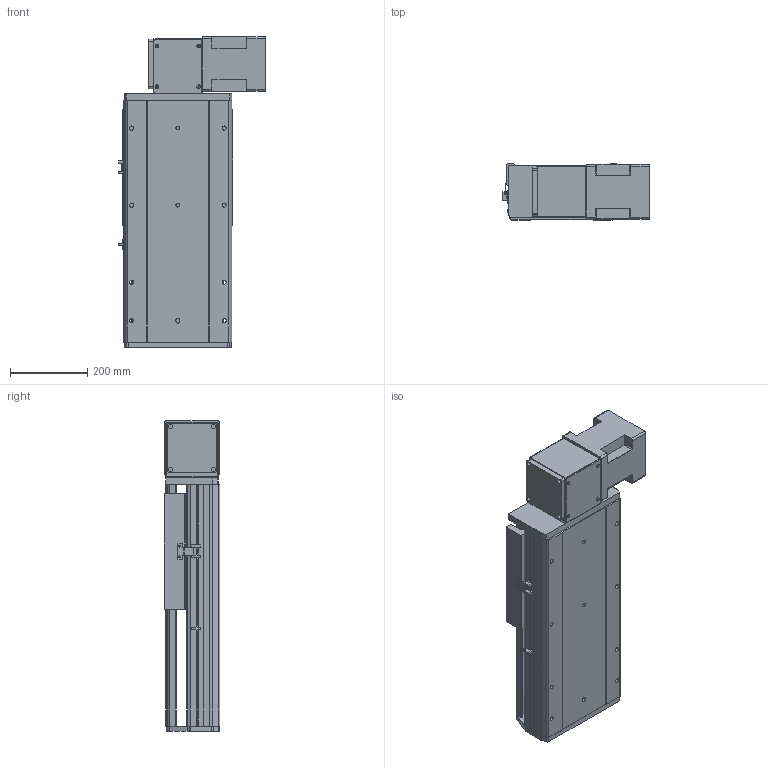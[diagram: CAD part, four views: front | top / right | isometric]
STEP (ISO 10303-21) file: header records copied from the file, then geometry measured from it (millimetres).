
FILE_DESCRIPTION (( 'STEP AP214' ), '1' );
FILE_NAME ('RTB28S-XX-200-BL-M100-XX-C4.STEP', '2025-12-22T02:15:24', ( '' ), ( '' ), 'SwSTEP 2.0', 'SolidWorks 2018', '' );
FILE_SCHEMA (( 'AUTOMOTIVE_DESIGN' ));
Length unit declared in the file: millimetre
Products named in the file (4): RTB28S-GY-004^RTB28S-XX-XX-BL-M100-XX-C4; RTB28S-XX-200-BL-M100-XX-C4; RTB28S-GY-011^RTB28S-XX-XX-BL-M100-XX-C4; RTB28S-GY-008^RTB28S-XX-XX-BL-M100-XX-C4
Assembly tree (3 placements, depth 2):
  RTB28S-XX-200-BL-M100-XX-C4
    RTB28S-GY-011^RTB28S-XX-XX-BL-M100-XX-C4
    RTB28S-GY-004^RTB28S-XX-XX-BL-M100-XX-C4
    RTB28S-GY-008^RTB28S-XX-XX-BL-M100-XX-C4
Bounding box: 380.7 x 145 x 807 mm (x, y, z)
Volume: 17012808.9 mm3; surface area: 1725177 mm2
Topology: 3 solids, 4 shells, 748 faces, 1968 edges, 1248 vertices
Faces by surface type: plane 337, cylinder 327, cone 80, torus 4
Entity records: 27569 total; most frequent: CARTESIAN_POINT 4402, DIRECTION 4158, ORIENTED_EDGE 3872, EDGE_CURVE 1936, AXIS2_PLACEMENT_3D 1484, VERTEX_POINT 1248, VECTOR 1190, LINE 1190
